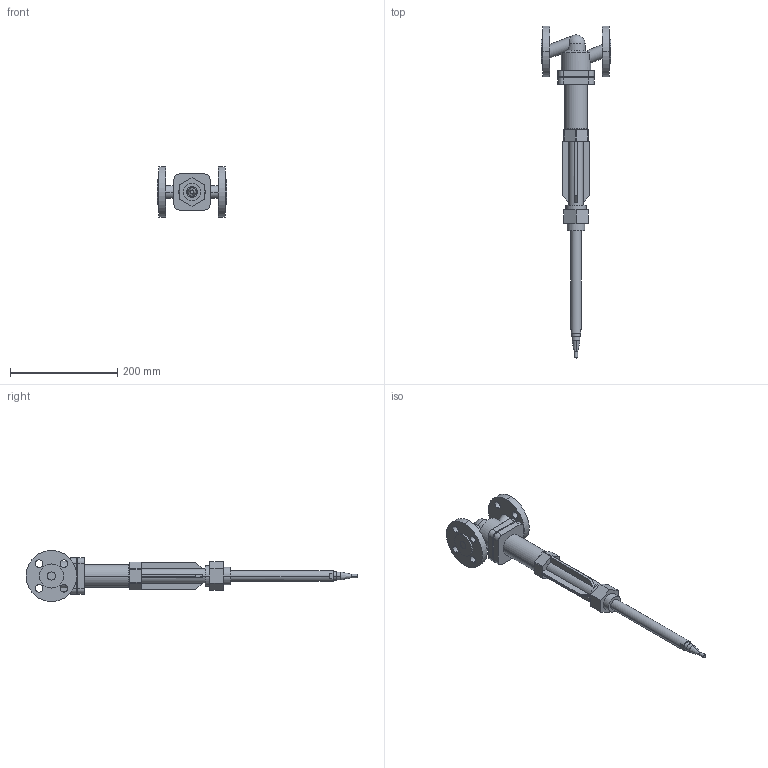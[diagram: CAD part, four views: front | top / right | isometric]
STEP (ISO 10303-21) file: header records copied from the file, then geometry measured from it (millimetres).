
FILE_DESCRIPTION(('CoCreate Modeling STEP Export'),'2;1');
FILE_NAME('c000001242.stp','2011-09-22T10:48:23',(''),(''),'CoCreate Modeling STEP processor for AP214 (Solid Model)','CoCreate Modeling 17.0 01-Apr-2010 (C) Parametric Technology GmbH','');
FILE_SCHEMA(('AUTOMOTIVE_DESIGN { 1 0 10303 214 1 1 1 1 }'));
Length unit declared in the file: millimetre
Products named in the file (1): 1
Bounding box: 130 x 619.54 x 95 mm (x, y, z)
Volume: 807292.5 mm3; surface area: 129685.4 mm2
Topology: 1 solids, 1 shells, 168 faces, 417 edges, 270 vertices
Faces by surface type: plane 80, cylinder 76, cone 10, sphere 2
Entity records: 7096 total; most frequent: CARTESIAN_POINT 1952, ORIENTED_EDGE 830, DIRECTION 718, EDGE_CURVE 415, VERTEX_POINT 270, AXIS2_PLACEMENT_3D 248, VECTOR 222, LINE 222
